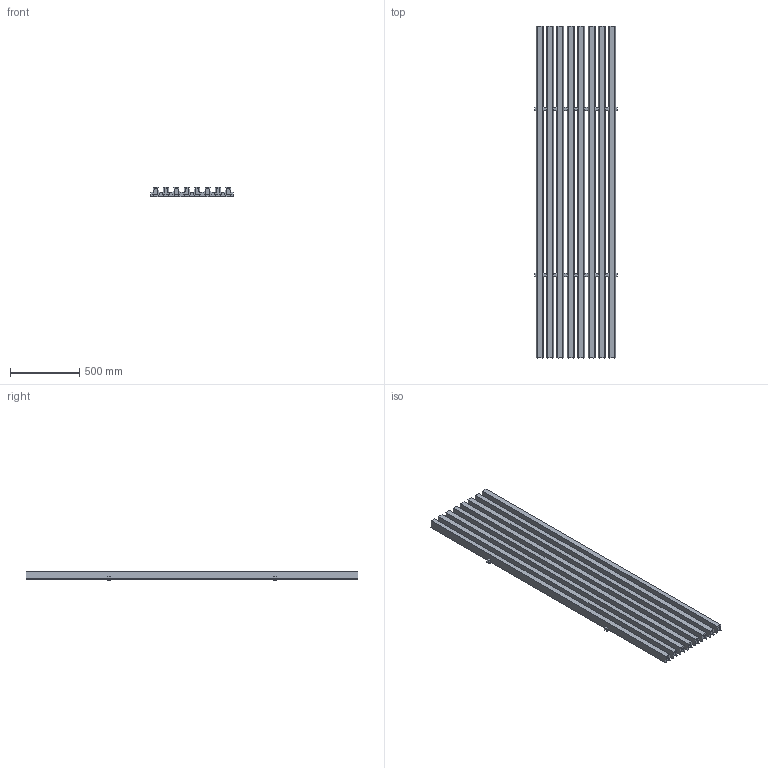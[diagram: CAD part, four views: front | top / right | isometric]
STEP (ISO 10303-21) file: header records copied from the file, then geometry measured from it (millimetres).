
FILE_DESCRIPTION (( 'STEP AP203' ), '1' );
FILE_NAME ('_Easy rails system.STEP', '2024-05-28T14:12:03', ( '' ), ( '' ), 'SwSTEP 2.0', 'SolidWorks 2023', '' );
FILE_SCHEMA (( 'CONFIG_CONTROL_DESIGN' ));
Length unit declared in the file: millimetre
Products named in the file (1): _Easy rails system
Bounding box: 600 x 2400 x 66.72 mm (x, y, z)
Volume: 22348902.9 mm3; surface area: 6613451.7 mm2
Topology: 10 solids, 10 shells, 1344 faces, 4336 edges, 2608 vertices
Faces by surface type: plane 984, cylinder 256, bspline 104
Entity records: 49143 total; most frequent: CARTESIAN_POINT 11721, ORIENTED_EDGE 8672, DIRECTION 6914, EDGE_CURVE 4336, LINE 3824, VECTOR 3824, VERTEX_POINT 2608, AXIS2_PLACEMENT_3D 1545
